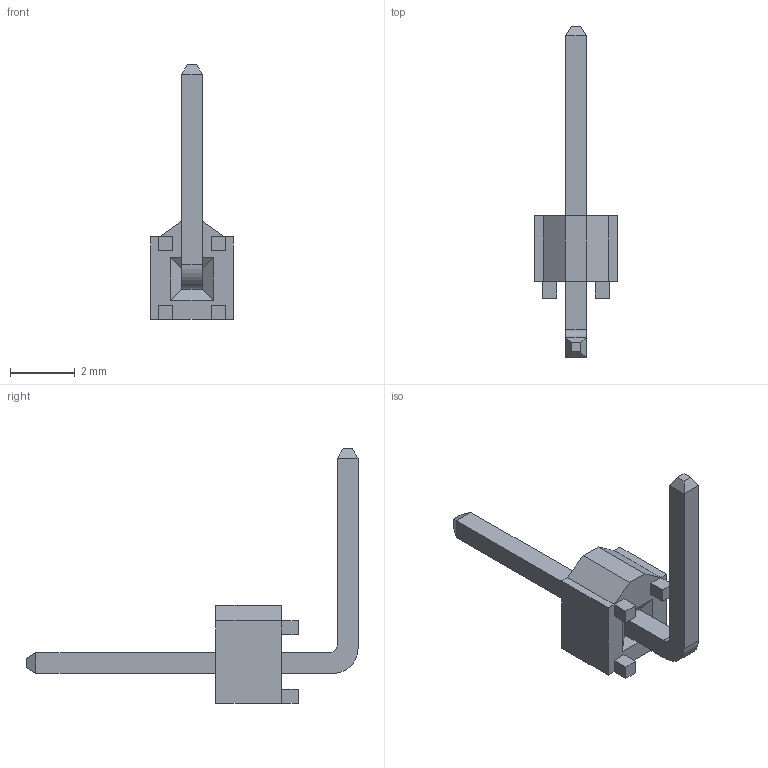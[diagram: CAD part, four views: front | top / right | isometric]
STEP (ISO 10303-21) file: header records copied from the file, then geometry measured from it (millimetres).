
FILE_DESCRIPTION(/* description */ ('STEP AP242','CAx-IF Rec.Pracs.---Representation and Presentation of Product Manufacturing Information (PMI)---4.0---2014-10-13','CAx-IF Rec.Pracs.---3D Tessellated Geometry---0.4---2014-09-14','2;1'),/* implementation_level */ '2;1');
FILE_NAME(/* name */ 'TSW-101-22-T-S-RA',/* time_stamp */ '2026-03-15T01:26:06+01:00',/* author */ ('License CC BY-ND 4.0'),/* organization */ ('CADENAS'),/* preprocessor_version */ 'ST-DEVELOPER v20',/* originating_system */ 'PARTsolutions',/* authorisation */ ' ');
FILE_SCHEMA (('AP242_MANAGED_MODEL_BASED_3D_ENGINEERING_MIM_LF { 1 0 10303 442 1 1 4 }'));
Length unit declared in the file: inch
Products named in the file (3): TSW-101-22-T-S-RA; TSW-101-22-T-S-RA_body; T-1S6-15-TSW-1-22-1-RA-S
Assembly tree (2 placements, depth 2):
  TSW-101-22-T-S-RA
    TSW-101-22-T-S-RA_body
    T-1S6-15-TSW-1-22-1-RA-S
Bounding box: 2.54 x 10.22 x 7.85 mm (x, y, z)
Volume: 20.2 mm3; surface area: 84.9 mm2
Topology: 2 solids, 2 shells, 66 faces, 164 edges, 104 vertices
Faces by surface type: plane 64, cylinder 2
Entity records: 1978 total; most frequent: CARTESIAN_POINT 337, ORIENTED_EDGE 328, DIRECTION 306, EDGE_CURVE 164, LINE 160, VECTOR 160, VERTEX_POINT 104, AXIS2_PLACEMENT_3D 73
